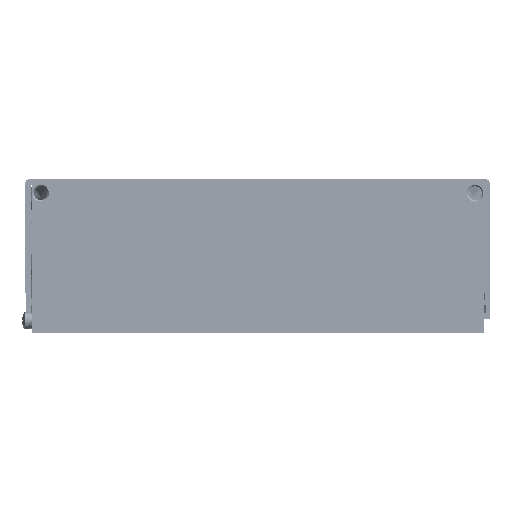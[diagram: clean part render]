
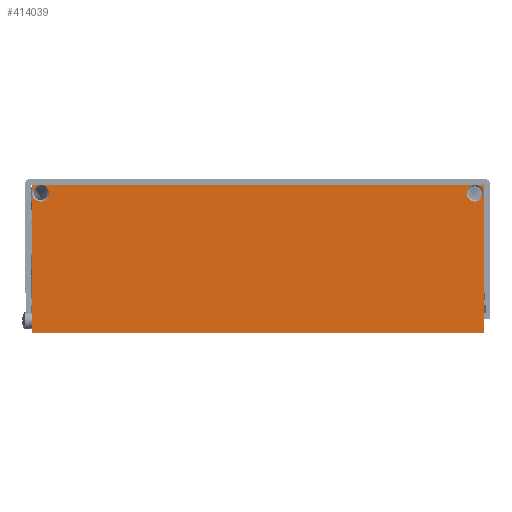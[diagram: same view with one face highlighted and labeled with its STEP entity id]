
A CAD part, left-side view. The second image highlights one B-rep face of the part: STEP entity #414039.
In plain terms, the highlighted planar face has unit normal (-1, 0, 0).
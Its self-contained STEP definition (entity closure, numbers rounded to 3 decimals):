
#4 = VERTEX_POINT ( 'NONE', #187220 ) ;
#5544 = DIRECTION ( 'NONE',  ( 0., -1., 0. ) ) ;
#7127 = CARTESIAN_POINT ( 'NONE',  ( -50.25, -73.2, -1.5 ) ) ;
#14276 = VERTEX_POINT ( 'NONE', #276928 ) ;
#14918 = LINE ( 'NONE', #106630, #285652 ) ;
#18609 = CIRCLE ( 'NONE', #21910, 2.7 ) ;
#19389 = VERTEX_POINT ( 'NONE', #368974 ) ;
#19668 = CARTESIAN_POINT ( 'NONE',  ( -50.25, -70.35, -4.17 ) ) ;
#21910 = AXIS2_PLACEMENT_3D ( 'NONE', #173651, #402021, #206476 ) ;
#24280 = VERTEX_POINT ( 'NONE', #161180 ) ;
#27027 = CARTESIAN_POINT ( 'NONE',  ( -50.25, -73.2, -1.5 ) ) ;
#35478 = LINE ( 'NONE', #7127, #122266 ) ;
#37248 = EDGE_CURVE ( 'NONE', #19389, #319022, #35478, .T. ) ;
#37885 = VERTEX_POINT ( 'NONE', #209159 ) ;
#41325 = VERTEX_POINT ( 'NONE', #275887 ) ;
#49709 = DIRECTION ( 'NONE',  ( -1., 0., 0. ) ) ;
#50751 = ORIENTED_EDGE ( 'NONE', *, *, #195388, .F. ) ;
#52569 = DIRECTION ( 'NONE',  ( 0., -1., 0. ) ) ;
#53644 = CARTESIAN_POINT ( 'NONE',  ( -50.25, -70.35, -4.17 ) ) ;
#66540 = ORIENTED_EDGE ( 'NONE', *, *, #322555, .F. ) ;
#68271 = ORIENTED_EDGE ( 'NONE', *, *, #156736, .F. ) ;
#70460 = LINE ( 'NONE', #163502, #157227 ) ;
#70783 = CARTESIAN_POINT ( 'NONE',  ( -50.25, -73.05, -4.17 ) ) ;
#72258 = ORIENTED_EDGE ( 'NONE', *, *, #371291, .F. ) ;
#78078 = VECTOR ( 'NONE', #288159, 1000. ) ;
#86416 = DIRECTION ( 'NONE',  ( 0., -1., 0. ) ) ;
#94192 = CARTESIAN_POINT ( 'NONE',  ( -50.25, 70.35, -4.17 ) ) ;
#105741 = VERTEX_POINT ( 'NONE', #388769 ) ;
#106630 = CARTESIAN_POINT ( 'NONE',  ( -50.25, -73.2, -1.5 ) ) ;
#113729 = CARTESIAN_POINT ( 'NONE',  ( -50.25, -67.65, -4.17 ) ) ;
#122266 = VECTOR ( 'NONE', #301102, 1000. ) ;
#125973 = PLANE ( 'NONE',  #245616 ) ;
#126952 = DIRECTION ( 'NONE',  ( 0., -1., 0. ) ) ;
#139733 = VERTEX_POINT ( 'NONE', #422008 ) ;
#139910 = VERTEX_POINT ( 'NONE', #70783 ) ;
#156736 = EDGE_CURVE ( 'NONE', #105741, #41325, #405973, .T. ) ;
#157227 = VECTOR ( 'NONE', #358987, 1000. ) ;
#159070 = CARTESIAN_POINT ( 'NONE',  ( -50.25, -69.949, -1.5 ) ) ;
#161180 = CARTESIAN_POINT ( 'NONE',  ( -50.25, -73.2, -49.5 ) ) ;
#163502 = CARTESIAN_POINT ( 'NONE',  ( -50.25, -73.2, -37.75 ) ) ;
#167654 = AXIS2_PLACEMENT_3D ( 'NONE', #19668, #247988, #52569 ) ;
#169862 = CIRCLE ( 'NONE', #331617, 2.7 ) ;
#173651 = CARTESIAN_POINT ( 'NONE',  ( -50.25, -70.35, -4.17 ) ) ;
#174537 = ORIENTED_EDGE ( 'NONE', *, *, #243093, .F. ) ;
#187220 = CARTESIAN_POINT ( 'NONE',  ( -50.25, 70.751, -1.5 ) ) ;
#191643 = DIRECTION ( 'NONE',  ( 0., 1., 0. ) ) ;
#195388 = EDGE_CURVE ( 'NONE', #139733, #19389, #169862, .T. ) ;
#199706 = ORIENTED_EDGE ( 'NONE', *, *, #357628, .F. ) ;
#201116 = DIRECTION ( 'NONE',  ( -1., 0., 0. ) ) ;
#205190 = ORIENTED_EDGE ( 'NONE', *, *, #416015, .F. ) ;
#206476 = DIRECTION ( 'NONE',  ( 0., -1., 0. ) ) ;
#209159 = CARTESIAN_POINT ( 'NONE',  ( -50.25, -73.2, -1.5 ) ) ;
#214865 = CARTESIAN_POINT ( 'NONE',  ( -50.25, 73.05, -4.17 ) ) ;
#231296 = ORIENTED_EDGE ( 'NONE', *, *, #37248, .F. ) ;
#233639 = FACE_OUTER_BOUND ( 'NONE', #325838, .T. ) ;
#235707 = EDGE_CURVE ( 'NONE', #105741, #24280, #422020, .T. ) ;
#243093 = EDGE_CURVE ( 'NONE', #14276, #37885, #14918, .T. ) ;
#245143 = CARTESIAN_POINT ( 'NONE',  ( -50.25, 70.35, -4.17 ) ) ;
#245616 = AXIS2_PLACEMENT_3D ( 'NONE', #354280, #387124, #191643 ) ;
#247988 = DIRECTION ( 'NONE',  ( -1., 0., 0. ) ) ;
#248283 = VECTOR ( 'NONE', #253217, 1000. ) ;
#253217 = DIRECTION ( 'NONE',  ( 0., -1., 0. ) ) ;
#262693 = VERTEX_POINT ( 'NONE', #113729 ) ;
#268990 = EDGE_CURVE ( 'NONE', #24280, #37885, #70460, .T. ) ;
#275887 = CARTESIAN_POINT ( 'NONE',  ( -50.25, 73.2, -1.5 ) ) ;
#276928 = CARTESIAN_POINT ( 'NONE',  ( -50.25, -70.751, -1.5 ) ) ;
#277946 = DIRECTION ( 'NONE',  ( 0., -1., 0. ) ) ;
#281889 = DIRECTION ( 'NONE',  ( -1., 0., 0. ) ) ;
#285652 = VECTOR ( 'NONE', #335022, 1000. ) ;
#288159 = DIRECTION ( 'NONE',  ( 0., -1., 0. ) ) ;
#300041 = ORIENTED_EDGE ( 'NONE', *, *, #268990, .T. ) ;
#301102 = DIRECTION ( 'NONE',  ( 0., -1., 0. ) ) ;
#318491 = CARTESIAN_POINT ( 'NONE',  ( -50.25, 73.2, -42.25 ) ) ;
#319022 = VERTEX_POINT ( 'NONE', #159070 ) ;
#322486 = DIRECTION ( 'NONE',  ( -1., 0., 0. ) ) ;
#322555 = EDGE_CURVE ( 'NONE', #4, #404299, #422145, .T. ) ;
#325812 = ORIENTED_EDGE ( 'NONE', *, *, #368194, .F. ) ;
#325838 = EDGE_LOOP ( 'NONE', ( #300041, #174537, #331205, #325812, #205190, #231296, #50751, #199706, #66540, #72258, #68271, #419118 ) ) ;
#329320 = VECTOR ( 'NONE', #417005, 1000. ) ;
#331205 = ORIENTED_EDGE ( 'NONE', *, *, #336317, .F. ) ;
#331617 = AXIS2_PLACEMENT_3D ( 'NONE', #94192, #322486, #126952 ) ;
#335022 = DIRECTION ( 'NONE',  ( 0., -1., 0. ) ) ;
#336317 = EDGE_CURVE ( 'NONE', #139910, #14276, #416818, .T. ) ;
#344922 = AXIS2_PLACEMENT_3D ( 'NONE', #245143, #49709, #277946 ) ;
#345594 = AXIS2_PLACEMENT_3D ( 'NONE', #53644, #281889, #86416 ) ;
#354280 = CARTESIAN_POINT ( 'NONE',  ( -50.25, -73.2, -37.75 ) ) ;
#357628 = EDGE_CURVE ( 'NONE', #404299, #139733, #412802, .T. ) ;
#358987 = DIRECTION ( 'NONE',  ( 0., 0., 1. ) ) ;
#368194 = EDGE_CURVE ( 'NONE', #262693, #139910, #370829, .T. ) ;
#368974 = CARTESIAN_POINT ( 'NONE',  ( -50.25, 69.949, -1.5 ) ) ;
#370161 = AXIS2_PLACEMENT_3D ( 'NONE', #396659, #201116, #5544 ) ;
#370829 = CIRCLE ( 'NONE', #167654, 2.7 ) ;
#371291 = EDGE_CURVE ( 'NONE', #41325, #4, #415163, .T. ) ;
#383122 = CARTESIAN_POINT ( 'NONE',  ( -50.25, 0., -49.5 ) ) ;
#387124 = DIRECTION ( 'NONE',  ( 1., 0., 0. ) ) ;
#388769 = CARTESIAN_POINT ( 'NONE',  ( -50.25, 73.2, -49.5 ) ) ;
#396659 = CARTESIAN_POINT ( 'NONE',  ( -50.25, 70.35, -4.17 ) ) ;
#402021 = DIRECTION ( 'NONE',  ( -1., 0., 0. ) ) ;
#404299 = VERTEX_POINT ( 'NONE', #214865 ) ;
#405973 = LINE ( 'NONE', #318491, #329320 ) ;
#412802 = CIRCLE ( 'NONE', #370161, 2.7 ) ;
#414039 = ADVANCED_FACE ( 'NONE', ( #233639 ), #125973, .F. ) ;
#415163 = LINE ( 'NONE', #27027, #78078 ) ;
#416015 = EDGE_CURVE ( 'NONE', #319022, #262693, #18609, .T. ) ;
#416818 = CIRCLE ( 'NONE', #345594, 2.7 ) ;
#417005 = DIRECTION ( 'NONE',  ( 0., 0., 1. ) ) ;
#419118 = ORIENTED_EDGE ( 'NONE', *, *, #235707, .T. ) ;
#422008 = CARTESIAN_POINT ( 'NONE',  ( -50.25, 67.65, -4.17 ) ) ;
#422020 = LINE ( 'NONE', #383122, #248283 ) ;
#422145 = CIRCLE ( 'NONE', #344922, 2.7 ) ;
